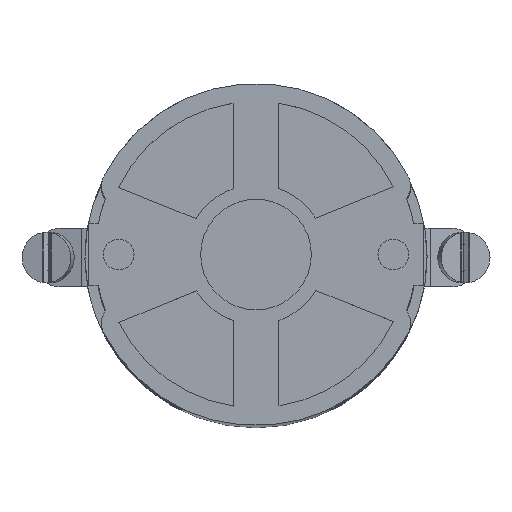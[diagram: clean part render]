
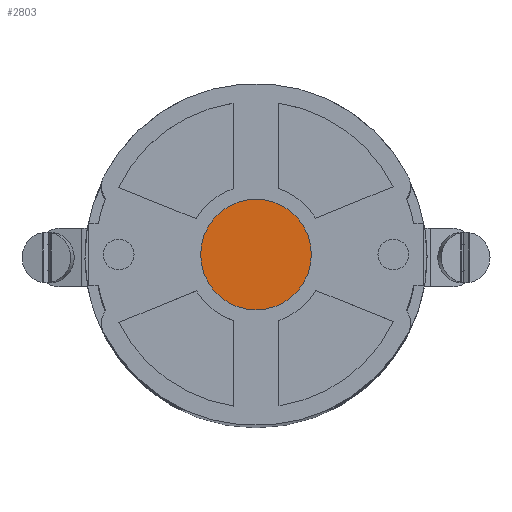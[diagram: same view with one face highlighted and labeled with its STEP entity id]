
A CAD part, top view. The second image highlights one B-rep face of the part: STEP entity #2803.
In plain terms, the highlighted planar face has unit normal (0, 0, 1).
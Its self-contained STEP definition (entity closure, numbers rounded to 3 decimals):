
#2803=ADVANCED_FACE('',(#6086),#4513,.T.);
#4513=PLANE('',#35997);
#6086=FACE_OUTER_BOUND('',#7744,.T.);
#7744=EDGE_LOOP('',(#20992));
#20992=ORIENTED_EDGE('',*,*,#31742,.F.);
#27333=VERTEX_POINT('',#54817);
#31742=EDGE_CURVE('',#27333,#27333,#33829,.T.);
#33829=CIRCLE('',#35996,6.15);
#35996=AXIS2_PLACEMENT_3D('',#54816,#42996,#42997);
#35997=AXIS2_PLACEMENT_3D('',#54818,#42998,#42999);
#42996=DIRECTION('',(0.,0.,-1.));
#42997=DIRECTION('',(1.,0.,0.));
#42998=DIRECTION('',(0.,0.,1.));
#42999=DIRECTION('',(1.,0.,0.));
#54816=CARTESIAN_POINT('',(0.,0.,137.3));
#54817=CARTESIAN_POINT('',(6.15,0.,137.3));
#54818=CARTESIAN_POINT('',(0.,0.,137.3));
